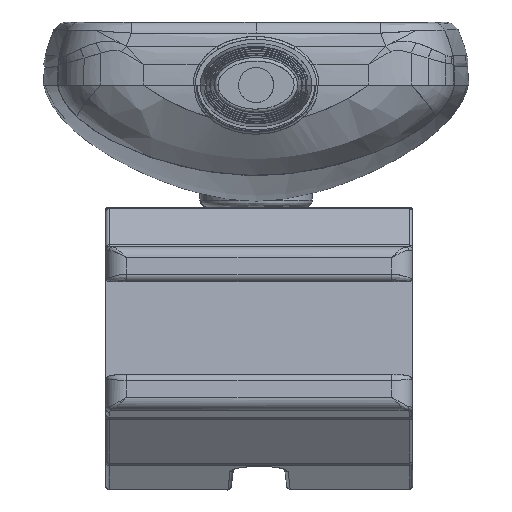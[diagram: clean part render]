
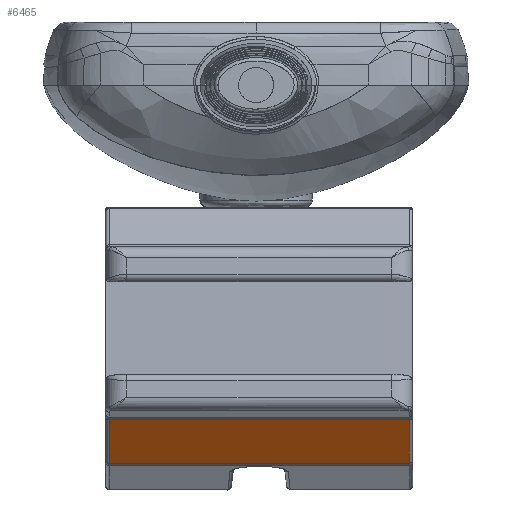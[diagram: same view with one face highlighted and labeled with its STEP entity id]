
A CAD part, front view. The second image highlights one B-rep face of the part: STEP entity #6465.
In plain terms, the highlighted planar face has unit normal (0, 0.796, 0.605).
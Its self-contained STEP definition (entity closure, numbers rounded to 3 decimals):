
#1915 = EDGE_CURVE ( 'NONE', #31662, #28180, #49907, .T. ) ;
#3403 = VECTOR ( 'NONE', #32500, 1000. ) ;
#6465 = ADVANCED_FACE ( 'NONE', ( #41681 ), #64327, .T. ) ;
#7958 = CARTESIAN_POINT ( 'NONE',  ( 21.832, 13.504, -48.73 ) ) ;
#8361 = AXIS2_PLACEMENT_3D ( 'NONE', #64122, #63857, #63850 ) ;
#8417 = CARTESIAN_POINT ( 'NONE',  ( 21.832, 18.205, -54.919 ) ) ;
#9830 = CARTESIAN_POINT ( 'NONE',  ( -20.968, 15.855, -51.825 ) ) ;
#25433 = VECTOR ( 'NONE', #42535, 1000. ) ;
#25881 = CARTESIAN_POINT ( 'NONE',  ( -20.968, 13.504, -48.73 ) ) ;
#26732 = DIRECTION ( 'NONE',  ( 1., 0., 0. ) ) ;
#28043 = VERTEX_POINT ( 'NONE', #25881 ) ;
#28180 = VERTEX_POINT ( 'NONE', #47262 ) ;
#29195 = ORIENTED_EDGE ( 'NONE', *, *, #1915, .T. ) ;
#29328 = LINE ( 'NONE', #70661, #34276 ) ;
#31662 = VERTEX_POINT ( 'NONE', #8417 ) ;
#32500 = DIRECTION ( 'NONE',  ( -1., 0., 0. ) ) ;
#33104 = CARTESIAN_POINT ( 'NONE',  ( 0.432, 18.205, -54.919 ) ) ;
#34276 = VECTOR ( 'NONE', #26732, 1000. ) ;
#35160 = VECTOR ( 'NONE', #47184, 1000. ) ;
#35372 = LINE ( 'NONE', #9830, #35160 ) ;
#35530 = ORIENTED_EDGE ( 'NONE', *, *, #65759, .T. ) ;
#41681 = FACE_OUTER_BOUND ( 'NONE', #70612, .T. ) ;
#42535 = DIRECTION ( 'NONE',  ( 0., 0.605, -0.796 ) ) ;
#47184 = DIRECTION ( 'NONE',  ( 0., -0.605, 0.796 ) ) ;
#47262 = CARTESIAN_POINT ( 'NONE',  ( -20.968, 18.205, -54.919 ) ) ;
#49907 = LINE ( 'NONE', #33104, #3403 ) ;
#57217 = LINE ( 'NONE', #68023, #25433 ) ;
#57256 = EDGE_CURVE ( 'NONE', #58820, #31662, #57217, .T. ) ;
#58820 = VERTEX_POINT ( 'NONE', #7958 ) ;
#61547 = ORIENTED_EDGE ( 'NONE', *, *, #57256, .T. ) ;
#63850 = DIRECTION ( 'NONE',  ( 0., -0.605, 0.796 ) ) ;
#63857 = DIRECTION ( 'NONE',  ( 0., 0.796, 0.605 ) ) ;
#64122 = CARTESIAN_POINT ( 'NONE',  ( -20.968, 18.205, -54.919 ) ) ;
#64327 = PLANE ( 'NONE',  #8361 ) ;
#65759 = EDGE_CURVE ( 'NONE', #28180, #28043, #35372, .T. ) ;
#66243 = EDGE_CURVE ( 'NONE', #28043, #58820, #29328, .T. ) ;
#68023 = CARTESIAN_POINT ( 'NONE',  ( 21.832, 15.855, -51.825 ) ) ;
#70612 = EDGE_LOOP ( 'NONE', ( #61547, #29195, #35530, #73328 ) ) ;
#70661 = CARTESIAN_POINT ( 'NONE',  ( 0.432, 13.504, -48.73 ) ) ;
#73328 = ORIENTED_EDGE ( 'NONE', *, *, #66243, .T. ) ;
